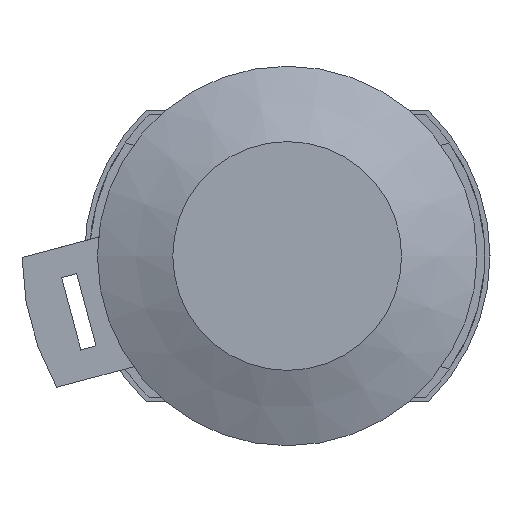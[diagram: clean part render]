
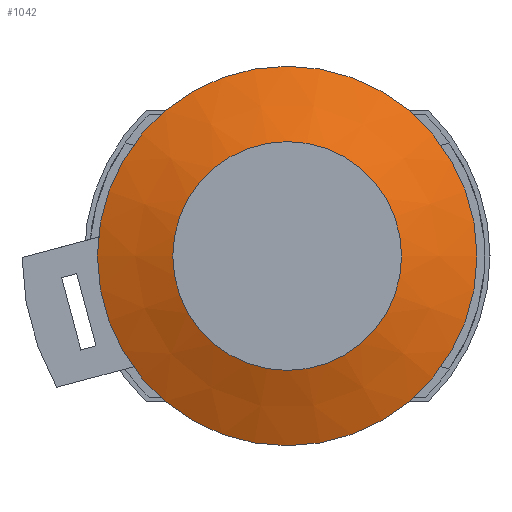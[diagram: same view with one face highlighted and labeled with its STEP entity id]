
A CAD part, left-side view. The second image highlights one B-rep face of the part: STEP entity #1042.
In plain terms, the highlighted conical face has half-angle 67.521 degrees and reference radius 18.25 mm.
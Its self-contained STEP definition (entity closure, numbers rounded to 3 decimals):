
#317 = EDGE_LOOP ( 'NONE', ( #1455 ) ) ;
#711 = EDGE_LOOP ( 'NONE', ( #1454 ) ) ;
#1042 = ADVANCED_FACE ( 'NONE', ( #4964, #4962 ), #4960, .T. ) ;
#1454 = ORIENTED_EDGE ( 'NONE', *, *, #2377, .T. ) ;
#1455 = ORIENTED_EDGE ( 'NONE', *, *, #2381, .F. ) ;
#2377 = EDGE_CURVE ( 'NONE', #8195, #8195, #5568, .T. ) ;
#2381 = EDGE_CURVE ( 'NONE', #8201, #8201, #5573, .T. ) ;
#2875 = AXIS2_PLACEMENT_3D ( 'NONE', #4092, #4093, #4070 ) ;
#4070 = DIRECTION ( 'NONE',  ( 0., 1., 0. ) ) ;
#4092 = CARTESIAN_POINT ( 'NONE',  ( -9.5, 0., 0. ) ) ;
#4093 = DIRECTION ( 'NONE',  ( 1., 0., 0. ) ) ;
#4960 = CONICAL_SURFACE ( 'NONE', #2875, 18.25, 1.178 ) ;
#4962 = FACE_OUTER_BOUND ( 'NONE', #317, .T. ) ;
#4964 = FACE_BOUND ( 'NONE', #711, .T. ) ;
#5568 = CIRCLE ( 'NONE', #6865, 11. ) ;
#5573 = CIRCLE ( 'NONE', #6868, 18.25 ) ;
#6513 = CARTESIAN_POINT ( 'NONE',  ( -12.5, 0., 0. ) ) ;
#6522 = DIRECTION ( 'NONE',  ( 1., 0., 0. ) ) ;
#6523 = DIRECTION ( 'NONE',  ( 0., 1., 0. ) ) ;
#6526 = CARTESIAN_POINT ( 'NONE',  ( -9.5, 0., 0. ) ) ;
#6531 = DIRECTION ( 'NONE',  ( 1., 0., 0. ) ) ;
#6532 = DIRECTION ( 'NONE',  ( 0., 1., 0. ) ) ;
#6865 = AXIS2_PLACEMENT_3D ( 'NONE', #6513, #6522, #6523 ) ;
#6868 = AXIS2_PLACEMENT_3D ( 'NONE', #6526, #6531, #6532 ) ;
#8195 = VERTEX_POINT ( 'NONE', #8196 ) ;
#8196 = CARTESIAN_POINT ( 'NONE',  ( -12.5, 11., 0. ) ) ;
#8201 = VERTEX_POINT ( 'NONE', #8202 ) ;
#8202 = CARTESIAN_POINT ( 'NONE',  ( -9.5, 18.25, 0. ) ) ;
